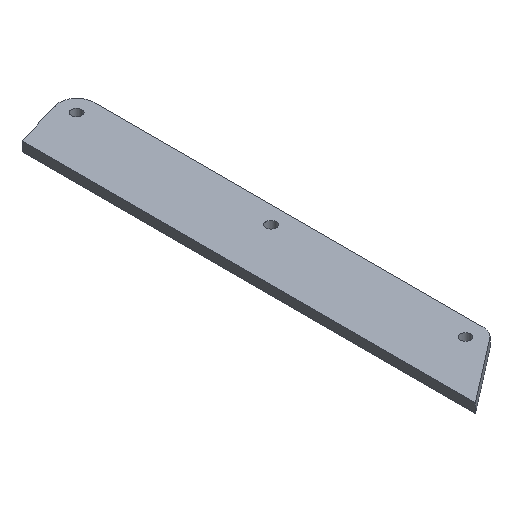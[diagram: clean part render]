
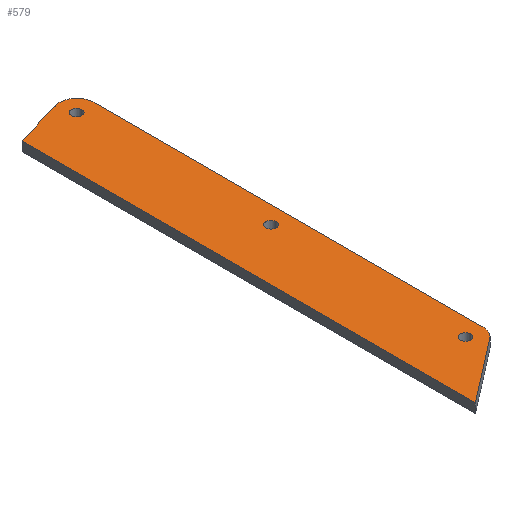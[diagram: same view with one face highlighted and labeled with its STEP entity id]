
A CAD part, isometric view. The second image highlights one B-rep face of the part: STEP entity #579.
In plain terms, the highlighted planar face has unit normal (0, 0, 1).
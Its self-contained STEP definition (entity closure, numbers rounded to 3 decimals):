
#267=PLANE('',#561);
#269=CIRCLE('',#547,15.);
#271=CIRCLE('',#553,15.);
#275=CIRCLE('',#560,4.5);
#276=CIRCLE('',#562,4.5);
#277=CIRCLE('',#563,4.5);
#313=ORIENTED_EDGE('',*,*,#375,.T.);
#314=ORIENTED_EDGE('',*,*,#389,.F.);
#315=ORIENTED_EDGE('',*,*,#387,.F.);
#316=ORIENTED_EDGE('',*,*,#384,.F.);
#317=ORIENTED_EDGE('',*,*,#381,.F.);
#318=ORIENTED_EDGE('',*,*,#378,.F.);
#319=ORIENTED_EDGE('',*,*,#393,.F.);
#320=ORIENTED_EDGE('',*,*,#394,.F.);
#321=ORIENTED_EDGE('',*,*,#395,.F.);
#330=VECTOR('',#448,1.);
#333=VECTOR('',#453,1.);
#336=VECTOR('',#458,1.);
#339=VECTOR('',#469,1.);
#344=LINE('',#506,#330);
#347=LINE('',#512,#333);
#350=LINE('',#518,#336);
#353=LINE('',#527,#339);
#355=VERTEX_POINT('',#494);
#357=VERTEX_POINT('',#498);
#359=VERTEX_POINT('',#503);
#361=VERTEX_POINT('',#509);
#363=VERTEX_POINT('',#515);
#365=VERTEX_POINT('',#521);
#369=VERTEX_POINT('',#536);
#370=VERTEX_POINT('',#539);
#371=VERTEX_POINT('',#541);
#375=EDGE_CURVE('',#355,#357,#269,.T.);
#378=EDGE_CURVE('',#355,#359,#344,.T.);
#381=EDGE_CURVE('',#359,#361,#347,.T.);
#384=EDGE_CURVE('',#361,#363,#350,.T.);
#387=EDGE_CURVE('',#363,#365,#271,.T.);
#389=EDGE_CURVE('',#365,#357,#353,.T.);
#393=EDGE_CURVE('',#369,#369,#275,.T.);
#394=EDGE_CURVE('',#370,#370,#276,.T.);
#395=EDGE_CURVE('',#371,#371,#277,.T.);
#408=EDGE_LOOP('',(#313,#314,#315,#316,#317,#318));
#409=EDGE_LOOP('',(#319));
#410=EDGE_LOOP('',(#320));
#411=EDGE_LOOP('',(#321));
#428=FACE_BOUND('',#408,.T.);
#429=FACE_BOUND('',#409,.T.);
#430=FACE_BOUND('',#410,.T.);
#431=FACE_BOUND('',#411,.T.);
#442=DIRECTION('',(0.,0.,1.));
#443=DIRECTION('',(0.,15.,0.));
#448=DIRECTION('',(-54.152,-41.703,0.));
#453=DIRECTION('',(0.,391.446,0.));
#458=DIRECTION('',(40.704,12.167,0.));
#464=DIRECTION('',(0.,0.,-1.));
#465=DIRECTION('',(0.,-15.,0.));
#469=DIRECTION('',(0.,-335.654,0.));
#480=DIRECTION('',(0.,0.,1.));
#481=DIRECTION('',(0.,-4.5,0.));
#482=DIRECTION('',(0.,0.,1.));
#483=DIRECTION('',(0.,-1.,0.));
#484=DIRECTION('',(0.,0.,1.));
#485=DIRECTION('',(0.,-4.5,0.));
#486=DIRECTION('',(0.,0.,1.));
#487=DIRECTION('',(0.,-4.5,0.));
#494=CARTESIAN_POINT('',(5023.656,13235.719,8.));
#498=CARTESIAN_POINT('',(5029.504,13247.604,8.));
#500=CARTESIAN_POINT('',(5014.504,13247.604,8.));
#503=CARTESIAN_POINT('',(4969.504,13194.017,8.));
#506=CARTESIAN_POINT('',(5023.656,13235.719,8.));
#509=CARTESIAN_POINT('',(4969.504,13585.463,8.));
#512=CARTESIAN_POINT('',(4969.504,13194.017,8.));
#515=CARTESIAN_POINT('',(5010.208,13597.629,8.));
#518=CARTESIAN_POINT('',(4969.504,13585.463,8.));
#521=CARTESIAN_POINT('',(5029.504,13583.258,8.));
#524=CARTESIAN_POINT('',(5014.504,13583.258,8.));
#527=CARTESIAN_POINT('',(5029.504,13583.258,8.));
#536=CARTESIAN_POINT('',(5014.504,13578.758,8.));
#537=CARTESIAN_POINT('',(5014.504,13583.258,8.));
#538=CARTESIAN_POINT('',(0.,0.,8.));
#539=CARTESIAN_POINT('',(5014.504,13243.104,8.));
#540=CARTESIAN_POINT('',(5014.504,13247.604,8.));
#541=CARTESIAN_POINT('',(5014.504,13410.931,8.));
#542=CARTESIAN_POINT('',(5014.504,13415.431,8.));
#547=AXIS2_PLACEMENT_3D('',#500,#442,#443);
#553=AXIS2_PLACEMENT_3D('',#524,#464,#465);
#560=AXIS2_PLACEMENT_3D('',#537,#480,#481);
#561=AXIS2_PLACEMENT_3D('',#538,#482,#483);
#562=AXIS2_PLACEMENT_3D('',#540,#484,#485);
#563=AXIS2_PLACEMENT_3D('',#542,#486,#487);
#579=ADVANCED_FACE('',(#428,#429,#430,#431),#267,.T.);
